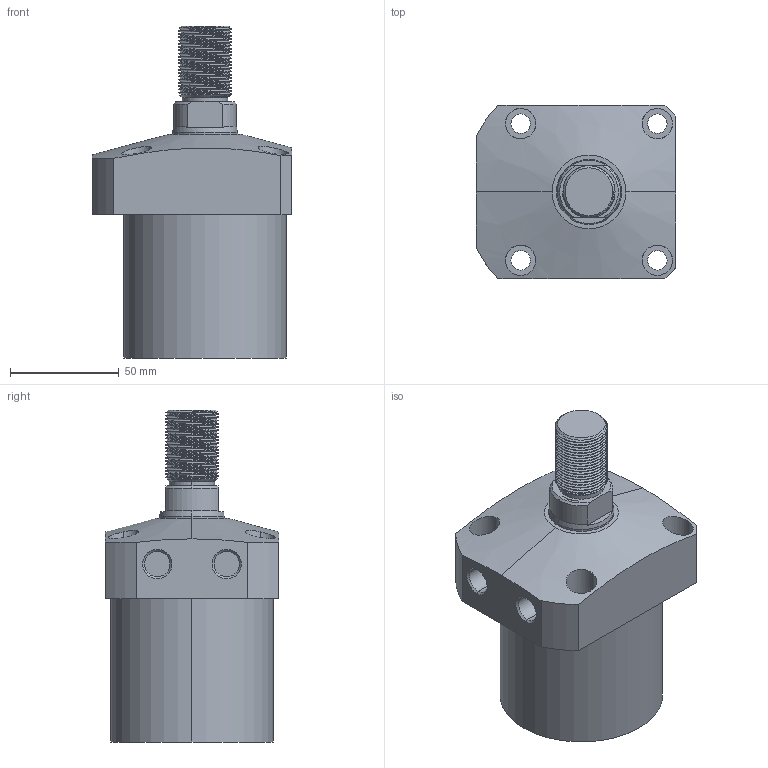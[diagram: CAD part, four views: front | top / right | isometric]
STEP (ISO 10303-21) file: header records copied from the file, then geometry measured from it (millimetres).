
FILE_DESCRIPTION (( 'STEP AP203' ), '1' );
FILE_NAME ('CLL-075CT-050.STEP', '2020-01-08T11:53:29', ( '' ), ( '' ), 'SwSTEP 2.0', 'SolidWorks 2015', '' );
FILE_SCHEMA (( 'CONFIG_CONTROL_DESIGN' ));
Length unit declared in the file: millimetre
Products named in the file (1): CLL-075CT-050
Bounding box: 92 x 80 x 153 mm (x, y, z)
Volume: 534775.1 mm3; surface area: 49940.6 mm2
Topology: 1 solids, 1 shells, 122 faces, 312 edges, 204 vertices
Faces by surface type: cylinder 77, plane 25, cone 16, bspline 4
Entity records: 7972 total; most frequent: CARTESIAN_POINT 5176, ORIENTED_EDGE 624, DIRECTION 511, EDGE_CURVE 312, VERTEX_POINT 204, AXIS2_PLACEMENT_3D 199, EDGE_LOOP 142, FACE_OUTER_BOUND 122
